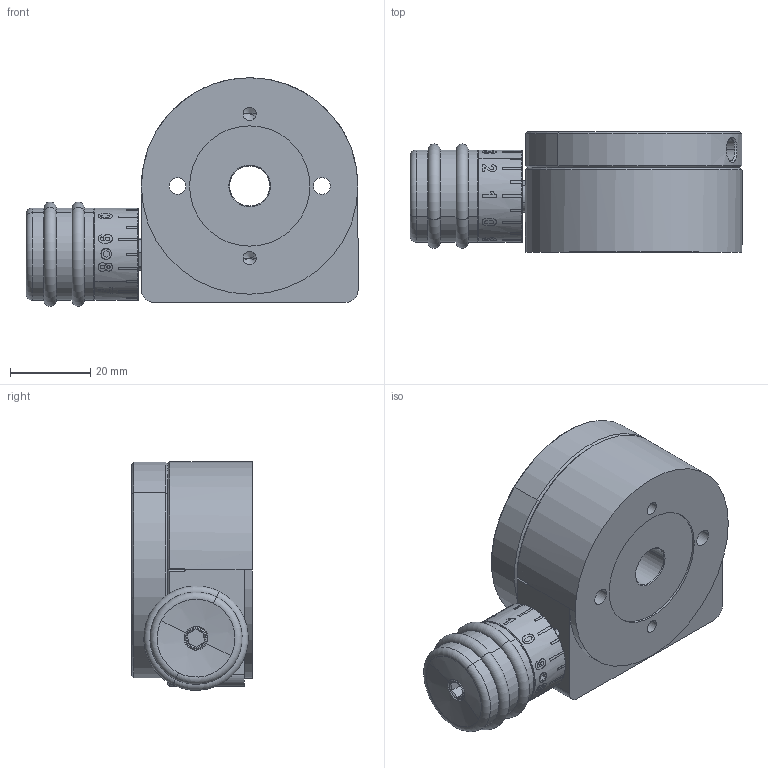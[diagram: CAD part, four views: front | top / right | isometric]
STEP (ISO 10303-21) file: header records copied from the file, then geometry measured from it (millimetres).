
FILE_DESCRIPTION (( 'STEP AP203' ), '1' );
FILE_NAME ('DT36008-SK-Drehtisch.STEP', '2016-01-15T16:05:02', ( '' ), ( '' ), 'SwSTEP 2.0', 'SolidWorks 2014', '' );
FILE_SCHEMA (( 'CONFIG_CONTROL_DESIGN' ));
Length unit declared in the file: millimetre
Products named in the file (3): DT36008-000-Drehtisch-Gehäuse-SK; DT36008-000-03-Drehscheibe-SKPAE-komplett; DT36008-SK-Drehtisch
Assembly tree (2 placements, depth 2):
  DT36008-SK-Drehtisch
    DT36008-000-Drehtisch-Gehäuse-SK
    DT36008-000-03-Drehscheibe-SKPAE-komplett
Bounding box: 82.79 x 30 x 57 mm (x, y, z)
Volume: 76589.3 mm3; surface area: 31174.3 mm2
Topology: 2 solids, 11 shells, 660 faces, 1648 edges, 1039 vertices
Faces by surface type: plane 222, cylinder 172, cone 112, bspline 106, torus 40, sphere 8
Entity records: 36019 total; most frequent: CARTESIAN_POINT 20726, ORIENTED_EDGE 3236, DIRECTION 2900, EDGE_CURVE 1618, AXIS2_PLACEMENT_3D 1151, VERTEX_POINT 1036, EDGE_LOOP 752, FACE_OUTER_BOUND 660
